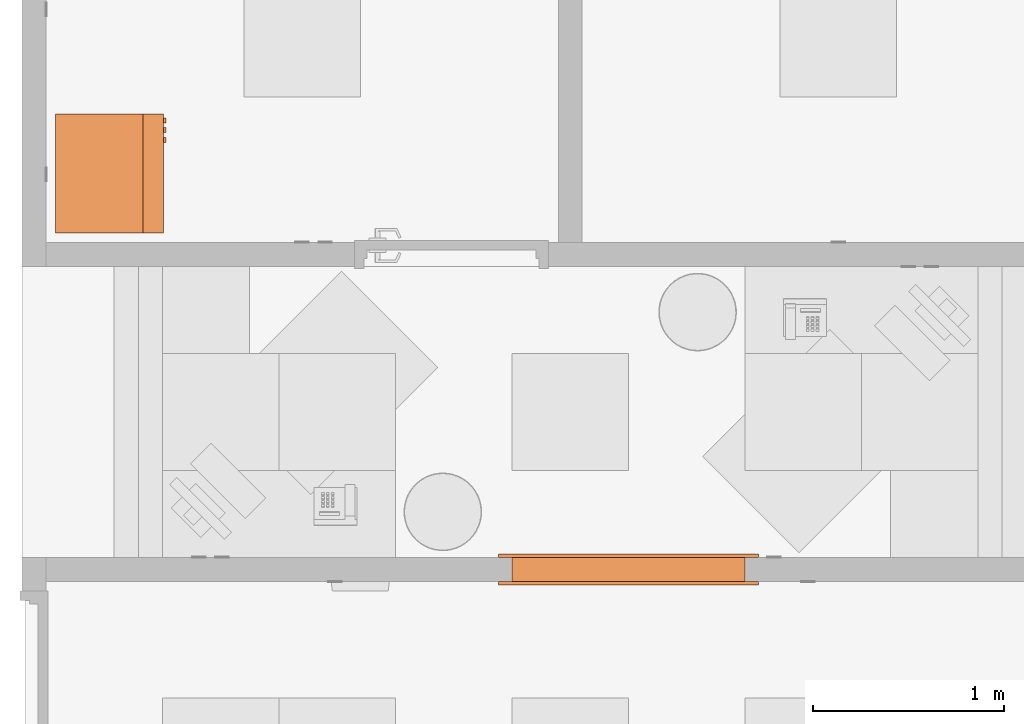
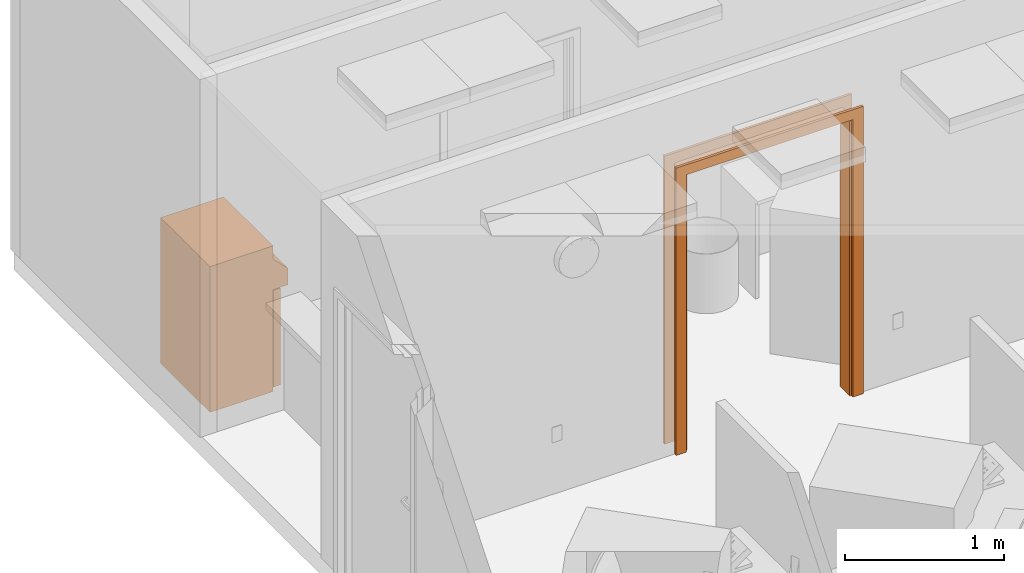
# One storey, part 19 of 20: 2 proxies.
"""IFC2X3 building model written with IfcOpenShell, lengths in feet."""

from ifc_helpers import new_model, entity, si_unit, converted_unit, derived_unit, direction, frame, origin, place, context, subcontext, project, spatial, faceted_brep, source, transform, mapped, material, type_object, type_shapes, element, save


model = new_model("IFC2X3")

# Units and contexts
model_context = context("Model", 3, precision=0.0001, world=origin(), true_north=direction((6.12303176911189e-17, 1.0)))
body_context = subcontext(model_context, "Body", "Model", "MODEL_VIEW")
ifc_project = project(units=[converted_unit("LENGTHUNIT", "FOOT", entity("IfcRatioMeasure", 0.3048), si_unit("LENGTHUNIT", "METRE"), dimensions=[1, 0, 0, 0, 0, 0, 0]), converted_unit("AREAUNIT", "SQUARE FOOT", entity("IfcRatioMeasure", 0.09290304), si_unit("AREAUNIT", "SQUARE_METRE"), dimensions=[2, 0, 0, 0, 0, 0, 0]), converted_unit("VOLUMEUNIT", "CUBIC FOOT", entity("IfcRatioMeasure", 0.028316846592), si_unit("VOLUMEUNIT", "CUBIC_METRE"), dimensions=[3, 0, 0, 0, 0, 0, 0]), converted_unit("PLANEANGLEUNIT", "DEGREE", entity("IfcRatioMeasure", 0.0174532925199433), si_unit("PLANEANGLEUNIT", "RADIAN"), dimensions=[0, 0, 0, 0, 0, 0, 0]), si_unit("MASSUNIT", "GRAM", prefix="KILO"), derived_unit("MASSDENSITYUNIT", [(si_unit("MASSUNIT", "GRAM", prefix="KILO"), 1), (si_unit("LENGTHUNIT", "METRE"), -3)]), si_unit("TIMEUNIT", "SECOND"), si_unit("FREQUENCYUNIT", "HERTZ"), si_unit("THERMODYNAMICTEMPERATUREUNIT", "DEGREE_CELSIUS"), derived_unit("THERMALTRANSMITTANCEUNIT", [(si_unit("MASSUNIT", "GRAM", prefix="KILO"), 1), (si_unit("THERMODYNAMICTEMPERATUREUNIT", "KELVIN"), -1), (si_unit("TIMEUNIT", "SECOND"), -3)]), derived_unit("VOLUMETRICFLOWRATEUNIT", [(si_unit("LENGTHUNIT", "METRE"), 3), (si_unit("TIMEUNIT", "SECOND"), -1)]), si_unit("ELECTRICCURRENTUNIT", "AMPERE"), si_unit("ELECTRICVOLTAGEUNIT", "VOLT"), si_unit("POWERUNIT", "WATT"), si_unit("FORCEUNIT", "NEWTON"), si_unit("ILLUMINANCEUNIT", "LUX"), si_unit("LUMINOUSFLUXUNIT", "LUMEN"), si_unit("LUMINOUSINTENSITYUNIT", "CANDELA"), derived_unit("USERDEFINED", [(si_unit("MASSUNIT", "GRAM", prefix="KILO"), -1), (si_unit("LENGTHUNIT", "METRE"), -2), (si_unit("TIMEUNIT", "SECOND"), 3), (si_unit("LUMINOUSFLUXUNIT", "LUMEN"), 1)]), derived_unit("LINEARVELOCITYUNIT", [(si_unit("LENGTHUNIT", "METRE"), 1), (si_unit("TIMEUNIT", "SECOND"), -1)]), si_unit("PRESSUREUNIT", "PASCAL"), derived_unit("USERDEFINED", [(si_unit("LENGTHUNIT", "METRE"), -2), (si_unit("MASSUNIT", "GRAM", prefix="KILO"), 1), (si_unit("TIMEUNIT", "SECOND"), -2)])], contexts=[model_context])

# Site, building, storey, space
site_placement = place(None, origin())
site = spatial("IfcSite", under=ifc_project, at=site_placement, Name="Default", CompositionType="ELEMENT")
building_placement = place(site_placement, origin())
building = spatial("IfcBuilding", under=site, at=building_placement, Name="OUTPATIENT / PACT CLINIC (Ch. 265)", CompositionType="ELEMENT")
storey_placement = place(building_placement, origin())
storey = spatial("IfcBuildingStorey", under=building, at=storey_placement, Name="DATUM", CompositionType="ELEMENT", Elevation=0.0)
space_1_placement = place(storey_placement, origin())
space_1 = spatial("IfcSpace", under=storey, at=space_1_placement, CompositionType="ELEMENT", InteriorOrExteriorSpace="INTERNAL")

# Proxy
building_element_proxy_type_1 = type_object("IfcBuildingElementProxyType", Name="F2550 - Shredder, Paper Heavy Duty", PredefinedType="NOTDEFINED")
shared_shape_1 = source(origin(), body_context, "Body", "Brep", [
    faceted_brep([(0.933890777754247, -0.895833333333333, 2.96222979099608), (0.850557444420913, -0.895833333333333, 2.96222979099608), (0.850557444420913, -0.895833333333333, 2.75389645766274), (0.933890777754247, -0.895833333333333, 2.75389645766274), (0.933890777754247, -0.854166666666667, 2.96222979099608), (0.933890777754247, -0.854166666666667, 2.75389645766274), (0.850557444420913, -0.854166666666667, 2.75389645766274), (0.850557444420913, -0.854166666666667, 2.96222979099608)], [[[0, 1, 2, 3]], [[4, 5, 6, 7]], [[1, 0, 4, 7]], [[2, 1, 7, 6]], [[3, 2, 6, 5]], [[0, 3, 5, 4]]]),
    faceted_brep([(0.76722411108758, -0.895833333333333, 2.96222979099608), (0.683890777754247, -0.895833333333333, 2.96222979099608), (0.683890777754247, -0.895833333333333, 2.75389645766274), (0.76722411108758, -0.895833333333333, 2.75389645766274), (0.76722411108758, -0.854166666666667, 2.96222979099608), (0.76722411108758, -0.854166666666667, 2.75389645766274), (0.683890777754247, -0.854166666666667, 2.75389645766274), (0.683890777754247, -0.854166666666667, 2.96222979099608)], [[[0, 1, 2, 3]], [[4, 5, 6, 7]], [[1, 0, 4, 7]], [[2, 1, 7, 6]], [[3, 2, 6, 5]], [[0, 3, 5, 4]]]),
    faceted_brep([(0.600557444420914, -0.895833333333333, 2.96222979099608), (0.51722411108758, -0.895833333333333, 2.96222979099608), (0.51722411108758, -0.895833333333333, 2.75389645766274), (0.600557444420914, -0.895833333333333, 2.75389645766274), (0.600557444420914, -0.854166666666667, 2.96222979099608), (0.600557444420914, -0.854166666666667, 2.75389645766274), (0.51722411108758, -0.854166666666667, 2.75389645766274), (0.51722411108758, -0.854166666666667, 2.96222979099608)], [[[0, 1, 2, 3]], [[4, 5, 6, 7]], [[1, 0, 4, 7]], [[2, 1, 7, 6]], [[3, 2, 6, 5]], [[0, 3, 5, 4]]]),
    faceted_brep([(1.0, -0.541666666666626, 2.58394660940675), (1.0, -0.708333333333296, 2.58394660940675), (1.0, -0.708333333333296, 0.145833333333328), (1.0, -0.541666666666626, 0.145833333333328), (-0.981201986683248, -0.541666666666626, 2.58394660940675), (-0.981201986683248, -0.541666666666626, 0.145833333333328), (-0.981201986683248, -0.708333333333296, 0.145833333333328), (-0.981201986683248, -0.708333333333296, 2.58394660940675)], [[[0, 1, 2, 3]], [[4, 5, 6, 7]], [[1, 0, 4, 7]], [[2, 1, 7, 6]], [[3, 2, 6, 5]], [[0, 3, 5, 4]]]),
    faceted_brep([(0.729166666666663, -0.708333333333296, 2.64644660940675), (0.729166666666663, -0.708333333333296, 2.58394660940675), (1.0, -0.708333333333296, 2.58394660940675), (1.0, -0.708333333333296, 2.64644660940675), (0.729166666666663, -0.499999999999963, 2.64644660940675), (1.0, -0.499999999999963, 2.64644660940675), (1.0, -0.499999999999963, 2.58394660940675), (0.729166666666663, -0.499999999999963, 2.58394660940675)], [[[0, 1, 2, 3]], [[4, 5, 6, 7]], [[1, 0, 4, 7]], [[2, 1, 7, 6]], [[3, 2, 6, 5]], [[0, 3, 5, 4]]]),
    faceted_brep([(0.729166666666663, -0.708333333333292, 0.145833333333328), (0.729166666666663, -0.708333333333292, 0.0833333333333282), (1.0, -0.708333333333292, 0.0833333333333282), (1.0, -0.708333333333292, 0.145833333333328), (0.729166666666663, -0.499999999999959, 0.145833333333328), (1.0, -0.499999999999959, 0.145833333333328), (1.0, -0.499999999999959, 0.0833333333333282), (0.729166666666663, -0.499999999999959, 0.0833333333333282)], [[[0, 1, 2, 3]], [[4, 5, 6, 7]], [[1, 0, 4, 7]], [[2, 1, 7, 6]], [[3, 2, 6, 5]], [[0, 3, 5, 4]]]),
    faceted_brep([(0.899788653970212, -0.541666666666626, 2.53491846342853), (-0.907183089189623, -0.541666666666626, 2.53491846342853), (-0.907183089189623, -0.541666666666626, 0.201585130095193), (0.899788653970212, -0.541666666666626, 0.201585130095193), (0.899788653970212, -0.499999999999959, 2.53491846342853), (0.899788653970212, -0.499999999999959, 0.201585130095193), (-0.907183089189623, -0.499999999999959, 0.201585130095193), (-0.907183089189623, -0.499999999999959, 2.53491846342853)], [[[0, 1, 2, 3]], [[4, 5, 6, 7]], [[1, 0, 4, 7]], [[2, 1, 7, 6]], [[3, 2, 6, 5]], [[0, 3, 5, 4]]]),
    faceted_brep([(1.0, 1.0, 3.75), (1.0, -0.499999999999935, 3.75000000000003), (1.0, -0.499999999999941, 3.41666666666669), (1.0, -0.853553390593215, 3.06311327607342), (1.0, -0.853553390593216, 2.64644660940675), (1.0, -0.499999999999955, 2.64644660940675), (1.0, -0.499999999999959, 0.0833333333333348), (1.0, 1.0, 0.0833333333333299), (-1.03832909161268, 1.0, 3.75), (-1.03832909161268, 1.0, 0.0833333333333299), (-1.03832909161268, -0.499999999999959, 0.0833333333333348), (-1.03832909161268, -0.499999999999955, 2.64644660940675), (-1.03832909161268, -0.853553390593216, 2.64644660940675), (-1.03832909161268, -0.853553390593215, 3.06311327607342), (-1.03832909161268, -0.499999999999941, 3.41666666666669), (-1.03832909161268, -0.499999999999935, 3.75000000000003), (-0.907183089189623, -0.853553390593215, 2.96282054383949), (0.42615024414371, -0.853553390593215, 2.96282054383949), (0.42615024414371, -0.853553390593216, 2.73365387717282), (-0.907183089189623, -0.853553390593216, 2.73365387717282), (0.42615024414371, -0.24574464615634, 2.96282054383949), (-0.907183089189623, -0.24574464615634, 2.96282054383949), (-0.907183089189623, -0.24574464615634, 2.73365387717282), (0.42615024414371, -0.24574464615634, 2.73365387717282)], [[[0, 1, 2, 3, 4, 5, 6, 7]], [[8, 9, 10, 11, 12, 13, 14, 15]], [[1, 0, 8, 15]], [[2, 1, 15, 14]], [[3, 2, 14, 13]], [[4, 3, 13, 12], [16, 17, 18, 19]], [[5, 4, 12, 11]], [[6, 5, 11, 10]], [[7, 6, 10, 9]], [[0, 7, 9, 8]], [[20, 21, 22, 23]], [[21, 20, 17, 16]], [[22, 21, 16, 19]], [[23, 22, 19, 18]], [[20, 23, 18, 17]]]),
    faceted_brep([(-0.803324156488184, -0.383966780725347, 0.0833333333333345), (-0.788250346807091, -0.377723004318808, 0.0833333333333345), (-0.775306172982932, -0.36779059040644, 0.0833333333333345), (-0.765373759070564, -0.354846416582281, 0.0833333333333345), (-0.759129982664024, -0.339772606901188, 0.0833333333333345), (-0.757000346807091, -0.32359641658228, 0.0833333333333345), (-0.759129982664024, -0.307420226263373, 0.0833333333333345), (-0.765373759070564, -0.29234641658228, 0.0833333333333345), (-0.775306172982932, -0.279402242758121, 0.0833333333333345), (-0.788250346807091, -0.269469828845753, 0.0833333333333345), (-0.803324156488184, -0.263226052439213, 0.0833333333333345), (-0.819500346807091, -0.26109641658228, 0.0833333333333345), (-0.835676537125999, -0.263226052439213, 0.0833333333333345), (-0.850750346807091, -0.269469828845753, 0.0833333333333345), (-0.86369452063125, -0.279402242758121, 0.0833333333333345), (-0.873626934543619, -0.29234641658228, 0.0833333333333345), (-0.879870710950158, -0.307420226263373, 0.0833333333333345), (-0.882000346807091, -0.32359641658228, 0.0833333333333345), (-0.879870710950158, -0.339772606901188, 0.0833333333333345), (-0.873626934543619, -0.35484641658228, 0.0833333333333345), (-0.863694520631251, -0.367790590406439, 0.0833333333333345), (-0.850750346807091, -0.377723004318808, 0.0833333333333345), (-0.835676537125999, -0.383966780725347, 0.0833333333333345), (-0.819500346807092, -0.38609641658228, 0.0833333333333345), (-0.775306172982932, -0.279402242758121, 0.0), (-0.765373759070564, -0.29234641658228, 0.0), (-0.759129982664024, -0.307420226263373, 0.0), (-0.757000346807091, -0.323596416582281, 0.0), (-0.759129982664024, -0.339772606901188, 0.0), (-0.765373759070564, -0.354846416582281, 0.0), (-0.775306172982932, -0.36779059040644, 0.0), (-0.788250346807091, -0.377723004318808, 0.0), (-0.803324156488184, -0.383966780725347, 0.0), (-0.819500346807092, -0.38609641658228, 0.0), (-0.835676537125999, -0.383966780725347, 0.0), (-0.850750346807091, -0.377723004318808, 0.0), (-0.863694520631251, -0.367790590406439, 0.0), (-0.873626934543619, -0.35484641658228, 0.0), (-0.879870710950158, -0.339772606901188, 0.0), (-0.882000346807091, -0.32359641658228, 0.0), (-0.879870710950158, -0.307420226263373, 0.0), (-0.873626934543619, -0.29234641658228, 0.0), (-0.86369452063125, -0.279402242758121, 0.0), (-0.850750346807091, -0.269469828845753, 0.0), (-0.835676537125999, -0.263226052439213, 0.0), (-0.819500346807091, -0.26109641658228, 0.0), (-0.803324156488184, -0.263226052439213, 0.0), (-0.788250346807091, -0.269469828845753, 0.0)], [[[0, 1, 2, 3, 4, 5, 6, 7, 8, 9, 10, 11, 12, 13, 14, 15, 16, 17, 18, 19, 20, 21, 22, 23]], [[24, 25, 26, 27, 28, 29, 30, 31, 32, 33, 34, 35, 36, 37, 38, 39, 40, 41, 42, 43, 44, 45, 46, 47]], [[38, 18, 17, 39]], [[37, 19, 18, 38]], [[21, 20, 36, 35]], [[37, 36, 20, 19]], [[22, 21, 35, 34]], [[23, 22, 34, 33]], [[1, 31, 30, 2]], [[3, 29, 28, 4]], [[30, 29, 3, 2]], [[4, 28, 27, 5]], [[31, 1, 0, 32]], [[0, 23, 33, 32]], [[26, 6, 5, 27]], [[25, 7, 6, 26]], [[9, 8, 24, 47]], [[25, 24, 8, 7]], [[10, 9, 47, 46]], [[46, 45, 11, 10]], [[12, 44, 43, 13]], [[42, 14, 13, 43]], [[15, 41, 40, 16]], [[42, 41, 15, 14]], [[16, 40, 39, 17]], [[44, 12, 11, 45]]]),
    faceted_brep([(-0.765373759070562, 0.749320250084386, 0.0833333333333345), (-0.759129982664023, 0.764394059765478, 0.0833333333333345), (-0.757000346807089, 0.780570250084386, 0.0833333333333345), (-0.759129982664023, 0.796746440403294, 0.0833333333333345), (-0.765373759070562, 0.811820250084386, 0.0833333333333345), (-0.77530617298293, 0.824764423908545, 0.0833333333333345), (-0.788250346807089, 0.834696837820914, 0.0833333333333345), (-0.803324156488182, 0.840940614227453, 0.0833333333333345), (-0.819500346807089, 0.843070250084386, 0.0833333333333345), (-0.835676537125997, 0.840940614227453, 0.0833333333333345), (-0.850750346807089, 0.834696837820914, 0.0833333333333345), (-0.863694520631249, 0.824764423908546, 0.0833333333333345), (-0.873626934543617, 0.811820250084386, 0.0833333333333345), (-0.879870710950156, 0.796746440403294, 0.0833333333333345), (-0.882000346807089, 0.780570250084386, 0.0833333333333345), (-0.879870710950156, 0.764394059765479, 0.0833333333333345), (-0.873626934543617, 0.749320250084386, 0.0833333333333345), (-0.863694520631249, 0.736376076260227, 0.0833333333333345), (-0.85075034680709, 0.726443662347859, 0.0833333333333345), (-0.835676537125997, 0.720199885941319, 0.0833333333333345), (-0.81950034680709, 0.718070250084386, 0.0833333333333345), (-0.803324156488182, 0.720199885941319, 0.0833333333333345), (-0.78825034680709, 0.726443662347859, 0.0833333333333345), (-0.77530617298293, 0.736376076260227, 0.0833333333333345), (-0.803324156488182, 0.840940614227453, 0.0), (-0.788250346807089, 0.834696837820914, 0.0), (-0.77530617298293, 0.824764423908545, 0.0), (-0.765373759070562, 0.811820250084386, 0.0), (-0.759129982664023, 0.796746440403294, 0.0), (-0.757000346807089, 0.780570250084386, 0.0), (-0.759129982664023, 0.764394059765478, 0.0), (-0.765373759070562, 0.749320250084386, 0.0), (-0.77530617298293, 0.736376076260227, 0.0), (-0.78825034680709, 0.726443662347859, 0.0), (-0.803324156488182, 0.720199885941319, 0.0), (-0.81950034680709, 0.718070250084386, 0.0), (-0.835676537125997, 0.720199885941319, 0.0), (-0.85075034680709, 0.726443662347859, 0.0), (-0.863694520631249, 0.736376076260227, 0.0), (-0.873626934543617, 0.749320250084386, 0.0), (-0.879870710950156, 0.764394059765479, 0.0), (-0.882000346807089, 0.780570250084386, 0.0), (-0.879870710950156, 0.796746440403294, 0.0), (-0.873626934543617, 0.811820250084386, 0.0), (-0.863694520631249, 0.824764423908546, 0.0), (-0.850750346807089, 0.834696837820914, 0.0), (-0.835676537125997, 0.840940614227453, 0.0), (-0.819500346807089, 0.843070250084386, 0.0)], [[[0, 1, 2, 3, 4, 5, 6, 7, 8, 9, 10, 11, 12, 13, 14, 15, 16, 17, 18, 19, 20, 21, 22, 23]], [[24, 25, 26, 27, 28, 29, 30, 31, 32, 33, 34, 35, 36, 37, 38, 39, 40, 41, 42, 43, 44, 45, 46, 47]], [[40, 15, 14, 41]], [[39, 16, 15, 40]], [[18, 17, 38, 37]], [[39, 38, 17, 16]], [[19, 18, 37, 36]], [[20, 19, 36, 35]], [[22, 33, 32, 23]], [[0, 31, 30, 1]], [[32, 31, 0, 23]], [[1, 30, 29, 2]], [[33, 22, 21, 34]], [[21, 20, 35, 34]], [[28, 3, 2, 29]], [[27, 4, 3, 28]], [[6, 5, 26, 25]], [[27, 26, 5, 4]], [[7, 6, 25, 24]], [[24, 47, 8, 7]], [[9, 46, 45, 10]], [[44, 11, 10, 45]], [[12, 43, 42, 13]], [[44, 43, 12, 11]], [[13, 42, 41, 14]], [[46, 9, 8, 47]]]),
    faceted_brep([(0.821675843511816, -0.383966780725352, 0.0833333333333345), (0.836749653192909, -0.377723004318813, 0.0833333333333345), (0.849693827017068, -0.367790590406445, 0.0833333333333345), (0.859626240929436, -0.354846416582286, 0.0833333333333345), (0.865870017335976, -0.339772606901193, 0.0833333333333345), (0.867999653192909, -0.323596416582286, 0.0833333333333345), (0.865870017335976, -0.307420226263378, 0.0833333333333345), (0.859626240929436, -0.292346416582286, 0.0833333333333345), (0.849693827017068, -0.279402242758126, 0.0833333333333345), (0.836749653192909, -0.269469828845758, 0.0833333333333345), (0.821675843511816, -0.263226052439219, 0.0833333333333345), (0.805499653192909, -0.261096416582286, 0.0833333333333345), (0.789323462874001, -0.263226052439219, 0.0833333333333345), (0.774249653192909, -0.269469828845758, 0.0833333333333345), (0.76130547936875, -0.279402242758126, 0.0833333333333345), (0.751373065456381, -0.292346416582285, 0.0833333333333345), (0.745129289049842, -0.307420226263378, 0.0833333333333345), (0.742999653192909, -0.323596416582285, 0.0833333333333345), (0.745129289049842, -0.339772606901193, 0.0833333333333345), (0.751373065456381, -0.354846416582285, 0.0833333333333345), (0.761305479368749, -0.367790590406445, 0.0833333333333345), (0.774249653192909, -0.377723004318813, 0.0833333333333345), (0.789323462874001, -0.383966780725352, 0.0833333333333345), (0.805499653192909, -0.386096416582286, 0.0833333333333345), (0.849693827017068, -0.279402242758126, 0.0), (0.859626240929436, -0.292346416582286, 0.0), (0.865870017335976, -0.307420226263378, 0.0), (0.867999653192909, -0.323596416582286, 0.0), (0.865870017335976, -0.339772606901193, 0.0), (0.859626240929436, -0.354846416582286, 0.0), (0.849693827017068, -0.367790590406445, 0.0), (0.836749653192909, -0.377723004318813, 0.0), (0.821675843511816, -0.383966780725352, 0.0), (0.805499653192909, -0.386096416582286, 0.0), (0.789323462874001, -0.383966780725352, 0.0), (0.774249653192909, -0.377723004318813, 0.0), (0.761305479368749, -0.367790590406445, 0.0), (0.751373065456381, -0.354846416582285, 0.0), (0.745129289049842, -0.339772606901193, 0.0), (0.742999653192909, -0.323596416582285, 0.0), (0.745129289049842, -0.307420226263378, 0.0), (0.751373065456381, -0.292346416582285, 0.0), (0.76130547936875, -0.279402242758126, 0.0), (0.774249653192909, -0.269469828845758, 0.0), (0.789323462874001, -0.263226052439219, 0.0), (0.805499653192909, -0.261096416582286, 0.0), (0.821675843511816, -0.263226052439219, 0.0), (0.836749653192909, -0.269469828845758, 0.0)], [[[0, 1, 2, 3, 4, 5, 6, 7, 8, 9, 10, 11, 12, 13, 14, 15, 16, 17, 18, 19, 20, 21, 22, 23]], [[24, 25, 26, 27, 28, 29, 30, 31, 32, 33, 34, 35, 36, 37, 38, 39, 40, 41, 42, 43, 44, 45, 46, 47]], [[38, 18, 17, 39]], [[37, 19, 18, 38]], [[21, 20, 36, 35]], [[37, 36, 20, 19]], [[22, 21, 35, 34]], [[23, 22, 34, 33]], [[1, 31, 30, 2]], [[3, 29, 28, 4]], [[30, 29, 3, 2]], [[4, 28, 27, 5]], [[31, 1, 0, 32]], [[0, 23, 33, 32]], [[26, 6, 5, 27]], [[25, 7, 6, 26]], [[9, 8, 24, 47]], [[25, 24, 8, 7]], [[10, 9, 47, 46]], [[46, 45, 11, 10]], [[12, 44, 43, 13]], [[42, 14, 13, 43]], [[15, 41, 40, 16]], [[42, 41, 15, 14]], [[16, 40, 39, 17]], [[44, 12, 11, 45]]]),
    faceted_brep([(0.859626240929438, 0.749320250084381, 0.0833333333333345), (0.865870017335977, 0.764394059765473, 0.0833333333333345), (0.867999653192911, 0.780570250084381, 0.0833333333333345), (0.865870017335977, 0.796746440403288, 0.0833333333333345), (0.859626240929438, 0.811820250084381, 0.0833333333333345), (0.84969382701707, 0.82476442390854, 0.0833333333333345), (0.836749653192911, 0.834696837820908, 0.0833333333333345), (0.821675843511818, 0.840940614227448, 0.0833333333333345), (0.805499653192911, 0.843070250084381, 0.0833333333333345), (0.789323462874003, 0.840940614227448, 0.0833333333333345), (0.774249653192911, 0.834696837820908, 0.0833333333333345), (0.761305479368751, 0.82476442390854, 0.0833333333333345), (0.751373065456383, 0.811820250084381, 0.0833333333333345), (0.745129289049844, 0.796746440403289, 0.0833333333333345), (0.742999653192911, 0.780570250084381, 0.0833333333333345), (0.745129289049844, 0.764394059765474, 0.0833333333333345), (0.751373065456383, 0.749320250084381, 0.0833333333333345), (0.761305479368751, 0.736376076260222, 0.0833333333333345), (0.77424965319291, 0.726443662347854, 0.0833333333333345), (0.789323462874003, 0.720199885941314, 0.0833333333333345), (0.80549965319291, 0.718070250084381, 0.0833333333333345), (0.821675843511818, 0.720199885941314, 0.0833333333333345), (0.83674965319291, 0.726443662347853, 0.0833333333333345), (0.84969382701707, 0.736376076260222, 0.0833333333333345), (0.821675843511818, 0.840940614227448, 0.0), (0.836749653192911, 0.834696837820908, 0.0), (0.84969382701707, 0.82476442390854, 0.0), (0.859626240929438, 0.811820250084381, 0.0), (0.865870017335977, 0.796746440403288, 0.0), (0.867999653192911, 0.780570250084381, 0.0), (0.865870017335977, 0.764394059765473, 0.0), (0.859626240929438, 0.749320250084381, 0.0), (0.84969382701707, 0.736376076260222, 0.0), (0.83674965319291, 0.726443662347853, 0.0), (0.821675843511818, 0.720199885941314, 0.0), (0.80549965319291, 0.718070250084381, 0.0), (0.789323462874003, 0.720199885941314, 0.0), (0.77424965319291, 0.726443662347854, 0.0), (0.761305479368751, 0.736376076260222, 0.0), (0.751373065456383, 0.749320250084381, 0.0), (0.745129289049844, 0.764394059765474, 0.0), (0.742999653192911, 0.780570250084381, 0.0), (0.745129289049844, 0.796746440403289, 0.0), (0.751373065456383, 0.811820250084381, 0.0), (0.761305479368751, 0.82476442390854, 0.0), (0.774249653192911, 0.834696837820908, 0.0), (0.789323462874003, 0.840940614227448, 0.0), (0.805499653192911, 0.843070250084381, 0.0)], [[[0, 1, 2, 3, 4, 5, 6, 7, 8, 9, 10, 11, 12, 13, 14, 15, 16, 17, 18, 19, 20, 21, 22, 23]], [[24, 25, 26, 27, 28, 29, 30, 31, 32, 33, 34, 35, 36, 37, 38, 39, 40, 41, 42, 43, 44, 45, 46, 47]], [[40, 15, 14, 41]], [[39, 16, 15, 40]], [[18, 17, 38, 37]], [[39, 38, 17, 16]], [[19, 18, 37, 36]], [[20, 19, 36, 35]], [[22, 33, 32, 23]], [[0, 31, 30, 1]], [[32, 31, 0, 23]], [[1, 30, 29, 2]], [[33, 22, 21, 34]], [[21, 20, 35, 34]], [[28, 3, 2, 29]], [[27, 4, 3, 28]], [[6, 5, 26, 25]], [[27, 26, 5, 4]], [[7, 6, 25, 24]], [[24, 47, 8, 7]], [[9, 46, 45, 10]], [[44, 11, 10, 45]], [[12, 43, 42, 13]], [[44, 43, 12, 11]], [[13, 42, 41, 14]], [[46, 9, 8, 47]]]),
])
type_shapes(building_element_proxy_type_1, [shared_shape_1])
proxy_1_placement = place(space_1_placement, frame((57.4307800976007, -847.907343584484, 0.0), z_axis=(0.0, 0.0, 1.0), x_axis=(0.0, 1.0, 0.0)))
element("IfcBuildingElementProxy", 1, at=proxy_1_placement, inside=space_1, type_object=building_element_proxy_type_1, Name="F2550 - Shredder, Paper Heavy Duty:F2550 - Shredder, Paper Heavy Duty", ObjectType="F2550 - Shredder, Paper Heavy Duty", context=body_context, shape_type="MappedRepresentation", body=[
    mapped(shared_shape_1, transform((0.0, 0.0, 0.0), scale=1.0)),
])

# Space
space_2_placement = place(storey_placement, origin())
space_2 = spatial("IfcSpace", under=storey, at=space_2_placement, CompositionType="ELEMENT", InteriorOrExteriorSpace="INTERNAL")

# Proxy
ifc_material = material(Name="Door - Frame")
building_element_proxy_type_2 = type_object("IfcBuildingElementProxyType", Name="48\" x 84\"", PredefinedType="NOTDEFINED", material=ifc_material)
shared_shape_2 = source(origin(), body_context, "Body", "Brep", [
    faceted_brep([(-2.00603233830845, -0.265625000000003, 0.0), (-2.00603233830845, -0.265625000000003, 6.97916666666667), (1.95230099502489, -0.265625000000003, 6.97916666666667), (1.95230099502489, -0.265625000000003, 0.0), (2.20230099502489, -0.265625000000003, 0.0), (2.20230099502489, -0.265625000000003, 7.22916666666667), (-2.25603233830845, -0.265625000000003, 7.22916666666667), (-2.25603233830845, -0.265625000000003, 0.0), (-2.00603233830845, -0.203125, 0.0), (-2.25603233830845, -0.203125, 0.0), (-2.25603233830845, -0.203125, 7.22916666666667), (2.20230099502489, -0.203125, 7.22916666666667), (2.20230099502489, -0.203125, 0.0), (1.95230099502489, -0.203125, 0.0), (1.95230099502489, -0.203125, 6.97916666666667), (-2.00603233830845, -0.203125, 6.97916666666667)], [[[0, 1, 2, 3, 4, 5, 6, 7]], [[8, 9, 10, 11, 12, 13, 14, 15]], [[1, 0, 8, 15]], [[2, 1, 15, 14]], [[3, 2, 14, 13]], [[4, 3, 13, 12]], [[5, 4, 12, 11]], [[6, 5, 11, 10]], [[7, 6, 10, 9]], [[0, 7, 9, 8]]]),
    faceted_brep([(2.20230099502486, 0.265625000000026, 0.0), (1.95230099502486, 0.265625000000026, 0.0), (1.95230099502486, 0.265625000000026, 6.97916666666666), (-2.00603233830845, 0.265625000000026, 6.97916666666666), (-2.00603233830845, 0.265625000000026, 0.0), (-2.25603233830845, 0.265625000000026, 0.0), (-2.25603233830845, 0.265625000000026, 7.25), (2.20230099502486, 0.265625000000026, 7.25), (2.20230099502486, 0.203125, 0.0), (2.20230099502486, 0.203125, 7.25), (-2.25603233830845, 0.203125, 7.25), (-2.25603233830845, 0.203125, 0.0), (-2.00603233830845, 0.203125, 0.0), (-2.00603233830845, 0.203125, 6.97916666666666), (1.95230099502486, 0.203125, 6.97916666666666), (1.95230099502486, 0.203125, 0.0)], [[[0, 1, 2, 3, 4, 5, 6, 7]], [[8, 9, 10, 11, 12, 13, 14, 15]], [[1, 0, 8, 15]], [[2, 1, 15, 14]], [[3, 2, 14, 13]], [[4, 3, 13, 12]], [[5, 4, 12, 11]], [[6, 5, 11, 10]], [[7, 6, 10, 9]], [[0, 7, 9, 8]]]),
    faceted_brep([(1.91063432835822, 0.203125, 0.0), (1.97313432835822, 0.203125, 0.0), (1.97313432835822, -0.203125, 0.0), (1.91063432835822, -0.203125, 0.0), (1.91063432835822, 0.203125, 6.9375), (1.97313432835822, 0.203125, 7.0), (1.97313432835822, -0.203125, 7.0), (1.91063432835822, -0.203125, 6.9375), (-1.96436567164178, 0.203125, 6.9375), (-2.02686567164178, 0.203125, 7.0), (-2.02686567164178, -0.203125, 7.0), (-1.96436567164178, -0.203125, 6.9375), (-1.96436567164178, 0.203125, 0.0), (-1.96436567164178, -0.203125, 0.0), (-2.02686567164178, -0.203125, 0.0), (-2.02686567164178, 0.203125, 0.0)], [[[0, 1, 2, 3]], [[1, 0, 4, 5]], [[2, 1, 5, 6]], [[3, 2, 6, 7]], [[0, 3, 7, 4]], [[5, 4, 8, 9]], [[6, 5, 9, 10]], [[7, 6, 10, 11]], [[4, 7, 11, 8]], [[12, 13, 14, 15]], [[9, 8, 12, 15]], [[10, 9, 15, 14]], [[11, 10, 14, 13]], [[8, 11, 13, 12]]]),
])
type_shapes(building_element_proxy_type_2, [shared_shape_2])
proxy_2_placement = place(space_2_placement, frame((66.2909791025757, -854.721714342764, 0.0)))
element("IfcBuildingElementProxy", 2, at=proxy_2_placement, inside=space_2, type_object=building_element_proxy_type_2, material=ifc_material, Name="Passage Opening-Cased:48\" x 84\"", ObjectType="48\" x 84\"", context=body_context, shape_type="MappedRepresentation", body=[
    mapped(shared_shape_2, transform((0.0, 0.0, 0.0), scale=1.0)),
])

save(model, "model.ifc")
